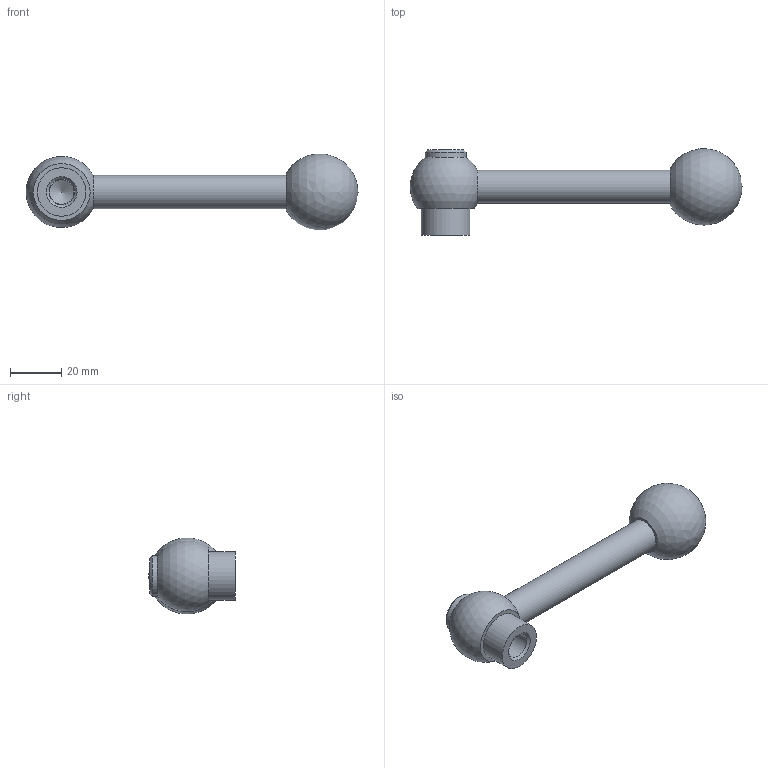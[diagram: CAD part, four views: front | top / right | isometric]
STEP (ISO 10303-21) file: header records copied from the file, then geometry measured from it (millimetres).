
FILE_DESCRIPTION( ( 'STEP AP203' ), '1' );
FILE_NAME( 'C:/Temp/Ganter_Step_05_03_2020/data/2_1/gn_6337_3/gn_6337_3_mb/gn_6337_3_mb_m/Adjustable clamping lever GN 6337.3-28-M12-M.stp', '2020-03-05T11:41:10', ( 'License CC BY-ND 4.0' ), ( 'CADENAS' ), ' ', 'PARTsolutions', ' ' );
FILE_SCHEMA( ( 'CONFIG_CONTROL_DESIGN' ) );
Length unit declared in the file: millimetre
Products named in the file (1): _Adjustable clamping lever GN 6337.3-28-M12-M
Bounding box: 129.99 x 33.93 x 29.7 mm (x, y, z)
Volume: 35860.3 mm3; surface area: 9344.4 mm2
Topology: 1 solids, 1 shells, 15 faces, 31 edges, 20 vertices
Faces by surface type: cylinder 5, plane 5, cone 3, sphere 2
Full cylindrical faces by diameter (mm): 9.6 x1, 10.106 x1, 13 x1, 15.969 x1, 19 x1
Entity records: 346 total; most frequent: DIRECTION 60, CARTESIAN_POINT 46, AXIS2_PLACEMENT_3D 30, EDGE_LOOP 28, ORIENTED_EDGE 28, FACE_OUTER_BOUND 21, VERTEX_POINT 16, ADVANCED_FACE 15
